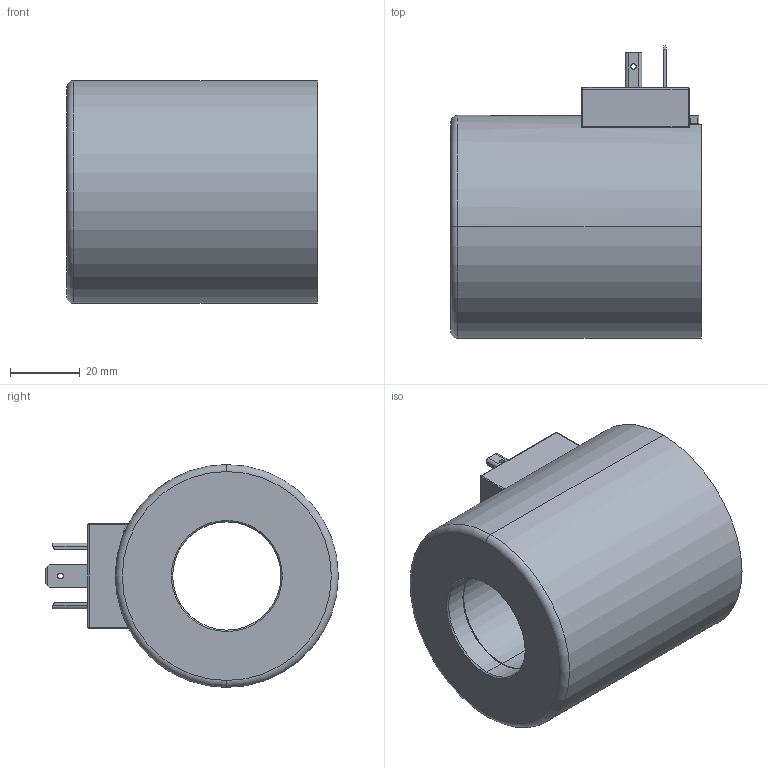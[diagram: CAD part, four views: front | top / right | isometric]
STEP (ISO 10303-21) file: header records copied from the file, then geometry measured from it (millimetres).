
FILE_DESCRIPTION (( 'STEP AP214' ), '1' );
FILE_NAME ('WDE64_31x72.STEP', '2015-10-06T13:40:25', ( '' ), ( '' ), 'SwSTEP 2.0', 'SolidWorks 2014', '' );
FILE_SCHEMA (( 'AUTOMOTIVE_DESIGN' ));
Length unit declared in the file: millimetre
Products named in the file (2): WDE64_31x72
Bounding box: 72 x 84 x 64 mm (x, y, z)
Volume: 184646.8 mm3; surface area: 29477.2 mm2
Topology: 2 solids, 2 shells, 144 faces, 364 edges, 221 vertices
Faces by surface type: cylinder 54, plane 45, bspline 18, cone 12, torus 9, sphere 6
Entity records: 6687 total; most frequent: CARTESIAN_POINT 1765, ORIENTED_EDGE 704, DIRECTION 674, EDGE_CURVE 352, AXIS2_PLACEMENT_3D 260, VERTEX_POINT 217, EDGE_LOOP 159, VECTOR 154
